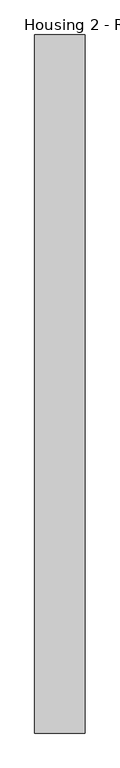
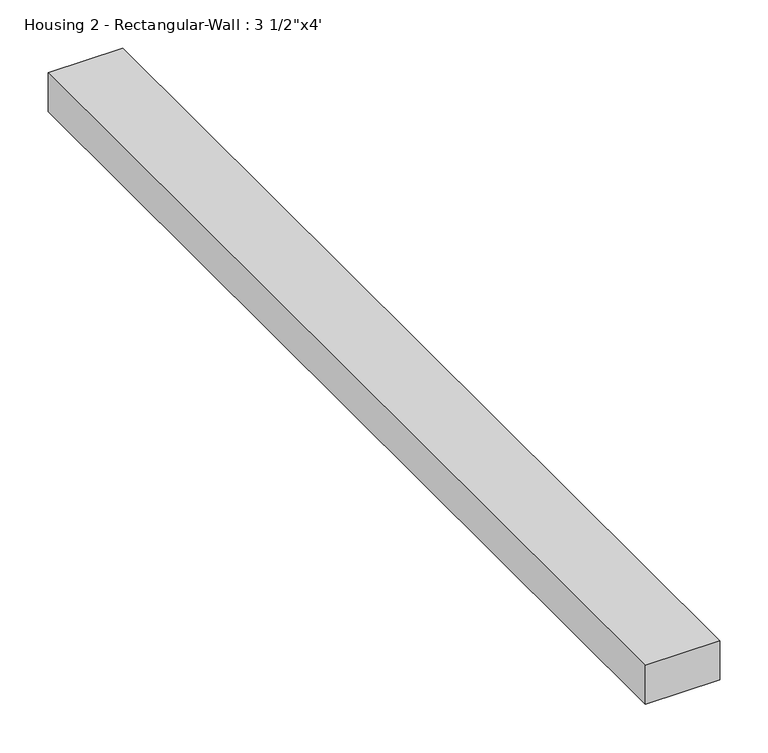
"""IFC4 building model written with IfcOpenShell, lengths in millimetres: proxy geometry."""

import ifcopenshell
import ifcopenshell.guid

model = None  # the IFC model being written
_history = None  # IfcOwnerHistory: only IFC2X3 demands one
_inside = {}  # id of a spatial element -> (the spatial element, [elements in it])
_under = {}  # id of a project, library or spatial element -> (it, [spatial elements below it])
_declared = {}  # id of a project -> (the project, [libraries it declares])
_typed = {}  # id of a type object -> (the type object, [elements of that type])
_made_of = {}  # id of a material, layer set ... -> (it, [elements and type objects made of it])


def new_model(schema):
    """Start an empty IFC model of exactly this schema.

    Asked for "IFC4X3", IfcOpenShell would pick the latest addendum, in which some entities
    have other attributes; the version numbers below select the first issue.
    IFC2X3 requires an IfcOwnerHistory on every rooted entity: one is made here for all.
    """
    global model, _history
    if schema == "IFC4X3":
        model = ifcopenshell.file(schema_version=(4, 3, 0, 0))
    else:
        model = ifcopenshell.file(schema=schema)
    _inside.clear()
    _under.clear()
    _declared.clear()
    _typed.clear()
    _made_of.clear()
    _history = None
    if model.schema == "IFC2X3":
        org = make("IfcOrganization", Name="unknown")
        user = make(
            "IfcPersonAndOrganization",
            ThePerson=make("IfcPerson", FamilyName="unknown"),
            TheOrganization=org,
        )
        app = make(
            "IfcApplication",
            ApplicationDeveloper=org,
            Version="unknown",
            ApplicationFullName="unknown",
            ApplicationIdentifier="unknown",
        )
        _history = make(
            "IfcOwnerHistory",
            OwningUser=user,
            OwningApplication=app,
            ChangeAction="ADDED",
            CreationDate=0,
        )
    return model


def make(cls, **values):
    """One entity of the class cls with the attributes given. An attribute that is None is left unset."""
    return model.create_entity(
        cls, **{name: value for name, value in values.items() if value is not None}
    )


def rooted(cls, **values):
    """An entity with a GlobalId (a new one), such as an element, a storey or a relation."""
    return make(cls, GlobalId=ifcopenshell.guid.new(), OwnerHistory=_history, **values)


def si_unit(unit_type, name, prefix=None):
    """IfcSIUnit, for example si_unit("LENGTHUNIT", "METRE", prefix="MILLI")."""
    return make("IfcSIUnit", UnitType=unit_type, Prefix=prefix, Name=name)


def assignment(units):
    """IfcUnitAssignment: the units of a project."""
    return None if units is None else make("IfcUnitAssignment", Units=units)


def point(xyz):
    """IfcCartesianPoint."""
    return None if xyz is None else make("IfcCartesianPoint", Coordinates=xyz)


def direction(xyz):
    """IfcDirection."""
    return None if xyz is None else make("IfcDirection", DirectionRatios=xyz)


def frame(location, z_axis=None, x_axis=None):
    """IfcAxis2Placement3D, a coordinate frame: its origin and axes. An axis left out is left unset."""
    return make(
        "IfcAxis2Placement3D",
        Location=point(location),
        Axis=direction(z_axis),
        RefDirection=direction(x_axis),
    )


def origin():
    """The frame at (0, 0, 0) with its axes left unset."""
    return frame((0.0, 0.0, 0.0))


def place(relative_to, where):
    """IfcLocalPlacement: puts the frame where relative to a parent placement (None: the world)."""
    return make(
        "IfcLocalPlacement", PlacementRelTo=relative_to, RelativePlacement=where
    )


def context(
    kind, dimensions, precision=None, world=None, true_north=None, identifier=None
):
    """IfcGeometricRepresentationContext, for example the 3D "Model" context."""
    return make(
        "IfcGeometricRepresentationContext",
        ContextIdentifier=identifier,
        ContextType=kind,
        CoordinateSpaceDimension=dimensions,
        Precision=precision,
        WorldCoordinateSystem=world,
        TrueNorth=true_north,
    )


def project(units=None, contexts=None):
    """IfcProject with its units and contexts."""
    return rooted(
        "IfcProject",
        Name="project",
        RepresentationContexts=contexts,
        UnitsInContext=assignment(units),
    )


def spatial(cls, under=None, at=None, **own):
    """A site, building, storey or space (cls), placed at a placement, below another one or the project."""
    s = rooted(cls, ObjectPlacement=at, **own)
    if under is not None:
        _under.setdefault(under.id(), (under, []))[1].append(s)
    return s


def polyline(points):
    """IfcPolyline through the points."""
    return make("IfcPolyline", Points=[point(p) for p in points])


def outline(outer, holes=None, kind="AREA"):
    """IfcArbitraryClosedProfileDef: a profile drawn as a closed curve; with holes, ...WithVoids."""
    if holes is None:
        return make("IfcArbitraryClosedProfileDef", ProfileType=kind, OuterCurve=outer)
    return make(
        "IfcArbitraryProfileDefWithVoids",
        ProfileType=kind,
        OuterCurve=outer,
        InnerCurves=holes,
    )


def extrude(swept, where, along, depth):
    """IfcExtrudedAreaSolid: the profile swept, set in the frame where, extruded along a direction by depth."""
    return make(
        "IfcExtrudedAreaSolid",
        SweptArea=swept,
        Position=where,
        ExtrudedDirection=direction(along),
        Depth=depth,
    )


def shape(context_of_items, identifier, shape_type, items):
    """IfcShapeRepresentation: the items that make up one representation, for example the "Body"."""
    return make(
        "IfcShapeRepresentation",
        ContextOfItems=context_of_items,
        RepresentationIdentifier=identifier,
        RepresentationType=shape_type,
        Items=items,
    )


def source(mapping_origin, context_of_items, identifier, shape_type, items):
    """IfcRepresentationMap: a shape defined once, which mapped items show again and again."""
    return make(
        "IfcRepresentationMap",
        MappingOrigin=mapping_origin,
        MappedRepresentation=shape(context_of_items, identifier, shape_type, items),
    )


def transform(
    local_origin,
    x_axis=None,
    y_axis=None,
    z_axis=None,
    scale=None,
    scale2=None,
    scale3=None,
    uniform=True,
):
    """IfcCartesianTransformationOperator3D, or its non-uniform kind. x_axis, y_axis, z_axis: its Axis1, 2, 3."""
    if uniform:
        return make(
            "IfcCartesianTransformationOperator3D",
            Axis1=direction(x_axis),
            Axis2=direction(y_axis),
            LocalOrigin=point(local_origin),
            Scale=scale,
            Axis3=direction(z_axis),
        )
    return make(
        "IfcCartesianTransformationOperator3DnonUniform",
        Axis1=direction(x_axis),
        Axis2=direction(y_axis),
        LocalOrigin=point(local_origin),
        Scale=scale,
        Axis3=direction(z_axis),
        Scale2=scale2,
        Scale3=scale3,
    )


def mapped(mapping_source, mapping_target):
    """IfcMappedItem: shows the shape of a source again, moved by a transform."""
    return make(
        "IfcMappedItem", MappingSource=mapping_source, MappingTarget=mapping_target
    )


def made_of(thing, what):
    """Note that an element or type object is made of a material, layer set ...; save() writes the relation."""
    if what is not None:
        _made_of.setdefault(what.id(), (what, []))[1].append(thing)
    return thing


def element(
    cls,
    number,
    at=None,
    inside=None,
    cuts=None,
    type_object=None,
    material=None,
    context=None,
    identifier="Body",
    shape_type=None,
    held_by="IfcProductDefinitionShape",
    body=None,
    shapes=None,
    **own,
):
    """One element of the class cls, such as IfcWall. Its Tag is "e" and its number.

    at: its placement. inside: the storey or other place that contains it. cuts: it is an
    opening in that element (IfcRelVoidsElement). A single representation is given by context,
    identifier, shape_type and body (its items); several are given by shapes. held_by: the class
    of the entity that holds the representations. save() writes the other relations.
    """
    e = rooted(cls, Tag="e%d" % number, ObjectPlacement=at, **own)
    if body is not None:
        shapes = [shape(context, identifier, shape_type, body)]
    if shapes is not None:
        e.Representation = make(held_by, Representations=shapes)
    if inside is not None:
        _inside.setdefault(inside.id(), (inside, []))[1].append(e)
    if cuts is not None:
        rooted(
            "IfcRelVoidsElement", RelatingBuildingElement=cuts, RelatedOpeningElement=e
        )
    if type_object is not None:
        _typed.setdefault(type_object.id(), (type_object, []))[1].append(e)
    return made_of(e, material)


def aggregate(whole, parts):
    """IfcRelAggregates: a whole, such as a stair, and the parts it consists of."""
    return rooted("IfcRelAggregates", RelatingObject=whole, RelatedObjects=parts)


def save(model, path):
    """Write the relations noted so far, then the file.

    IfcRelAggregates (storeys below a building ...), IfcRelContainedInSpatialStructure (elements
    in a storey), IfcRelDefinesByType, IfcRelAssociatesMaterial and IfcRelDeclares: one each for
    every whole, place, type object, material and project.
    """
    for whole, parts in _under.values():
        aggregate(whole, parts)
    for where, things in _inside.values():
        rooted(
            "IfcRelContainedInSpatialStructure",
            RelatedElements=things,
            RelatingStructure=where,
        )
    for kind, things in _typed.values():
        rooted("IfcRelDefinesByType", RelatedObjects=things, RelatingType=kind)
    for what, things in _made_of.values():
        rooted("IfcRelAssociatesMaterial", RelatedObjects=things, RelatingMaterial=what)
    for by, libraries in _declared.values():
        rooted("IfcRelDeclares", RelatingContext=by, RelatedDefinitions=libraries)
    model.write(path)


def proxy_18cfbb88(model_context):
    return source(origin(), model_context, "Body", "SweptSolid", [
        extrude(outline(polyline([(-44.45, 293.8363281), (44.45, 293.8363281), (44.45, -941.2386719), (-44.45, -941.2386719), (-44.45, 293.8363281)])), frame((0.0, 0.0, 6.35), z_axis=(0.0, 0.0, 1.0), x_axis=(1.0, 0.0, 0.0)), (0.0, 0.0, 1.0), 49.2125),
    ])


if __name__ == "__main__":
    model = new_model("IFC4")
    model_context = context("Model", 3, world=origin())
    ifc_project = project(units=[si_unit("LENGTHUNIT", "METRE", prefix="MILLI")], contexts=[model_context])
    site = spatial("IfcSite", under=ifc_project)
    building = spatial("IfcBuilding", under=site)
    placement = place(None, origin())
    proxy_shape = proxy_18cfbb88(model_context)
    element("IfcBuildingElementProxy", 1, Name="Housing 2 - Rectangular-Wall : 3 1/2\"x4'", ObjectType="Housing 2 - Rectangular-Wall : 3 1/2\"x4'", at=placement, inside=building, context=model_context, shape_type="MappedRepresentation", body=[
        mapped(proxy_shape, transform((0.0, 0.0, 0.0), x_axis=(1.0, 0.0, 0.0), y_axis=(0.0, 1.0, 0.0), z_axis=(0.0, 0.0, 1.0))),
    ])
    save(model, "model.ifc")
